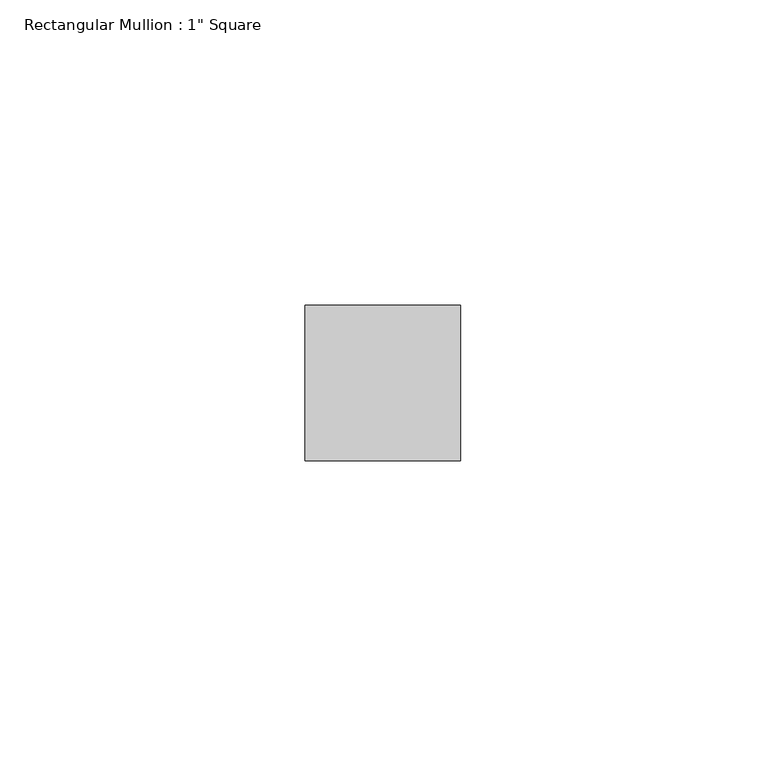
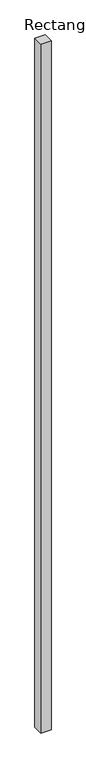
"""IFC4 building model written with IfcOpenShell, lengths in millimetres: member geometry."""

import ifcopenshell
import ifcopenshell.guid

model = None  # the IFC model being written
_history = None  # IfcOwnerHistory: only IFC2X3 demands one
_inside = {}  # id of a spatial element -> (the spatial element, [elements in it])
_under = {}  # id of a project, library or spatial element -> (it, [spatial elements below it])
_declared = {}  # id of a project -> (the project, [libraries it declares])
_typed = {}  # id of a type object -> (the type object, [elements of that type])
_made_of = {}  # id of a material, layer set ... -> (it, [elements and type objects made of it])


def new_model(schema):
    """Start an empty IFC model of exactly this schema.

    Asked for "IFC4X3", IfcOpenShell would pick the latest addendum, in which some entities
    have other attributes; the version numbers below select the first issue.
    IFC2X3 requires an IfcOwnerHistory on every rooted entity: one is made here for all.
    """
    global model, _history
    if schema == "IFC4X3":
        model = ifcopenshell.file(schema_version=(4, 3, 0, 0))
    else:
        model = ifcopenshell.file(schema=schema)
    _inside.clear()
    _under.clear()
    _declared.clear()
    _typed.clear()
    _made_of.clear()
    _history = None
    if model.schema == "IFC2X3":
        org = make("IfcOrganization", Name="unknown")
        user = make(
            "IfcPersonAndOrganization",
            ThePerson=make("IfcPerson", FamilyName="unknown"),
            TheOrganization=org,
        )
        app = make(
            "IfcApplication",
            ApplicationDeveloper=org,
            Version="unknown",
            ApplicationFullName="unknown",
            ApplicationIdentifier="unknown",
        )
        _history = make(
            "IfcOwnerHistory",
            OwningUser=user,
            OwningApplication=app,
            ChangeAction="ADDED",
            CreationDate=0,
        )
    return model


def make(cls, **values):
    """One entity of the class cls with the attributes given. An attribute that is None is left unset."""
    return model.create_entity(
        cls, **{name: value for name, value in values.items() if value is not None}
    )


def rooted(cls, **values):
    """An entity with a GlobalId (a new one), such as an element, a storey or a relation."""
    return make(cls, GlobalId=ifcopenshell.guid.new(), OwnerHistory=_history, **values)


def si_unit(unit_type, name, prefix=None):
    """IfcSIUnit, for example si_unit("LENGTHUNIT", "METRE", prefix="MILLI")."""
    return make("IfcSIUnit", UnitType=unit_type, Prefix=prefix, Name=name)


def assignment(units):
    """IfcUnitAssignment: the units of a project."""
    return None if units is None else make("IfcUnitAssignment", Units=units)


def point(xyz):
    """IfcCartesianPoint."""
    return None if xyz is None else make("IfcCartesianPoint", Coordinates=xyz)


def direction(xyz):
    """IfcDirection."""
    return None if xyz is None else make("IfcDirection", DirectionRatios=xyz)


def frame(location, z_axis=None, x_axis=None):
    """IfcAxis2Placement3D, a coordinate frame: its origin and axes. An axis left out is left unset."""
    return make(
        "IfcAxis2Placement3D",
        Location=point(location),
        Axis=direction(z_axis),
        RefDirection=direction(x_axis),
    )


def origin():
    """The frame at (0, 0, 0) with its axes left unset."""
    return frame((0.0, 0.0, 0.0))


def place(relative_to, where):
    """IfcLocalPlacement: puts the frame where relative to a parent placement (None: the world)."""
    return make(
        "IfcLocalPlacement", PlacementRelTo=relative_to, RelativePlacement=where
    )


def context(
    kind, dimensions, precision=None, world=None, true_north=None, identifier=None
):
    """IfcGeometricRepresentationContext, for example the 3D "Model" context."""
    return make(
        "IfcGeometricRepresentationContext",
        ContextIdentifier=identifier,
        ContextType=kind,
        CoordinateSpaceDimension=dimensions,
        Precision=precision,
        WorldCoordinateSystem=world,
        TrueNorth=true_north,
    )


def project(units=None, contexts=None):
    """IfcProject with its units and contexts."""
    return rooted(
        "IfcProject",
        Name="project",
        RepresentationContexts=contexts,
        UnitsInContext=assignment(units),
    )


def spatial(cls, under=None, at=None, **own):
    """A site, building, storey or space (cls), placed at a placement, below another one or the project."""
    s = rooted(cls, ObjectPlacement=at, **own)
    if under is not None:
        _under.setdefault(under.id(), (under, []))[1].append(s)
    return s


def polyline(points):
    """IfcPolyline through the points."""
    return make("IfcPolyline", Points=[point(p) for p in points])


def outline(outer, holes=None, kind="AREA"):
    """IfcArbitraryClosedProfileDef: a profile drawn as a closed curve; with holes, ...WithVoids."""
    if holes is None:
        return make("IfcArbitraryClosedProfileDef", ProfileType=kind, OuterCurve=outer)
    return make(
        "IfcArbitraryProfileDefWithVoids",
        ProfileType=kind,
        OuterCurve=outer,
        InnerCurves=holes,
    )


def extrude(swept, where, along, depth):
    """IfcExtrudedAreaSolid: the profile swept, set in the frame where, extruded along a direction by depth."""
    return make(
        "IfcExtrudedAreaSolid",
        SweptArea=swept,
        Position=where,
        ExtrudedDirection=direction(along),
        Depth=depth,
    )


def shape(context_of_items, identifier, shape_type, items):
    """IfcShapeRepresentation: the items that make up one representation, for example the "Body"."""
    return make(
        "IfcShapeRepresentation",
        ContextOfItems=context_of_items,
        RepresentationIdentifier=identifier,
        RepresentationType=shape_type,
        Items=items,
    )


def source(mapping_origin, context_of_items, identifier, shape_type, items):
    """IfcRepresentationMap: a shape defined once, which mapped items show again and again."""
    return make(
        "IfcRepresentationMap",
        MappingOrigin=mapping_origin,
        MappedRepresentation=shape(context_of_items, identifier, shape_type, items),
    )


def transform(
    local_origin,
    x_axis=None,
    y_axis=None,
    z_axis=None,
    scale=None,
    scale2=None,
    scale3=None,
    uniform=True,
):
    """IfcCartesianTransformationOperator3D, or its non-uniform kind. x_axis, y_axis, z_axis: its Axis1, 2, 3."""
    if uniform:
        return make(
            "IfcCartesianTransformationOperator3D",
            Axis1=direction(x_axis),
            Axis2=direction(y_axis),
            LocalOrigin=point(local_origin),
            Scale=scale,
            Axis3=direction(z_axis),
        )
    return make(
        "IfcCartesianTransformationOperator3DnonUniform",
        Axis1=direction(x_axis),
        Axis2=direction(y_axis),
        LocalOrigin=point(local_origin),
        Scale=scale,
        Axis3=direction(z_axis),
        Scale2=scale2,
        Scale3=scale3,
    )


def mapped(mapping_source, mapping_target):
    """IfcMappedItem: shows the shape of a source again, moved by a transform."""
    return make(
        "IfcMappedItem", MappingSource=mapping_source, MappingTarget=mapping_target
    )


def made_of(thing, what):
    """Note that an element or type object is made of a material, layer set ...; save() writes the relation."""
    if what is not None:
        _made_of.setdefault(what.id(), (what, []))[1].append(thing)
    return thing


def element(
    cls,
    number,
    at=None,
    inside=None,
    cuts=None,
    type_object=None,
    material=None,
    context=None,
    identifier="Body",
    shape_type=None,
    held_by="IfcProductDefinitionShape",
    body=None,
    shapes=None,
    **own,
):
    """One element of the class cls, such as IfcWall. Its Tag is "e" and its number.

    at: its placement. inside: the storey or other place that contains it. cuts: it is an
    opening in that element (IfcRelVoidsElement). A single representation is given by context,
    identifier, shape_type and body (its items); several are given by shapes. held_by: the class
    of the entity that holds the representations. save() writes the other relations.
    """
    e = rooted(cls, Tag="e%d" % number, ObjectPlacement=at, **own)
    if body is not None:
        shapes = [shape(context, identifier, shape_type, body)]
    if shapes is not None:
        e.Representation = make(held_by, Representations=shapes)
    if inside is not None:
        _inside.setdefault(inside.id(), (inside, []))[1].append(e)
    if cuts is not None:
        rooted(
            "IfcRelVoidsElement", RelatingBuildingElement=cuts, RelatedOpeningElement=e
        )
    if type_object is not None:
        _typed.setdefault(type_object.id(), (type_object, []))[1].append(e)
    return made_of(e, material)


def aggregate(whole, parts):
    """IfcRelAggregates: a whole, such as a stair, and the parts it consists of."""
    return rooted("IfcRelAggregates", RelatingObject=whole, RelatedObjects=parts)


def save(model, path):
    """Write the relations noted so far, then the file.

    IfcRelAggregates (storeys below a building ...), IfcRelContainedInSpatialStructure (elements
    in a storey), IfcRelDefinesByType, IfcRelAssociatesMaterial and IfcRelDeclares: one each for
    every whole, place, type object, material and project.
    """
    for whole, parts in _under.values():
        aggregate(whole, parts)
    for where, things in _inside.values():
        rooted(
            "IfcRelContainedInSpatialStructure",
            RelatedElements=things,
            RelatingStructure=where,
        )
    for kind, things in _typed.values():
        rooted("IfcRelDefinesByType", RelatedObjects=things, RelatingType=kind)
    for what, things in _made_of.values():
        rooted("IfcRelAssociatesMaterial", RelatedObjects=things, RelatingMaterial=what)
    for by, libraries in _declared.values():
        rooted("IfcRelDeclares", RelatingContext=by, RelatedDefinitions=libraries)
    model.write(path)


def member_582f46e3(model_context):
    return source(origin(), model_context, "Body", "SweptSolid", [
        extrude(outline(polyline([(12.7, 12.7), (12.7, -12.7), (-12.7, -12.7), (-12.7, 12.7), (12.7, 12.7)])), frame((0.0, 0.0, -1804.6), z_axis=(0.0, 0.0, 1.0), x_axis=(1.0, 0.0, 0.0)), (0.0, 0.0, 1.0), 1804.6),
    ])


if __name__ == "__main__":
    model = new_model("IFC4")
    model_context = context("Model", 3, world=origin())
    ifc_project = project(units=[si_unit("LENGTHUNIT", "METRE", prefix="MILLI")], contexts=[model_context])
    site = spatial("IfcSite", under=ifc_project)
    building = spatial("IfcBuilding", under=site)
    placement = place(None, origin())
    member_shape = member_582f46e3(model_context)
    element("IfcMember", 1, ObjectType="Rectangular Mullion : 1\" Square", at=placement, inside=building, context=model_context, shape_type="MappedRepresentation", body=[
        mapped(member_shape, transform((0.0, 0.0, 0.0), x_axis=(1.0, 0.0, 0.0), y_axis=(0.0, 1.0, 0.0), z_axis=(0.0, 0.0, 1.0))),
    ])
    save(model, "model.ifc")
